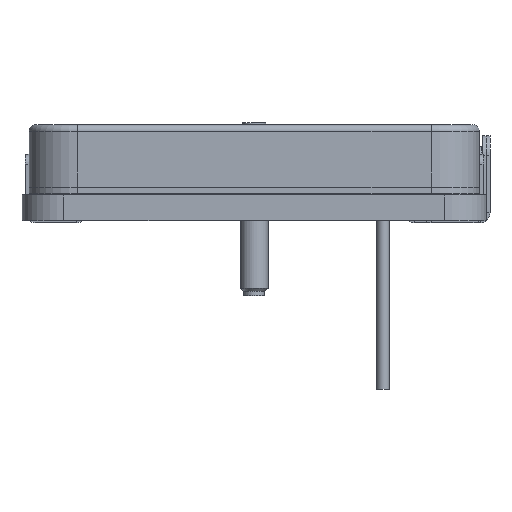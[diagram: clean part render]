
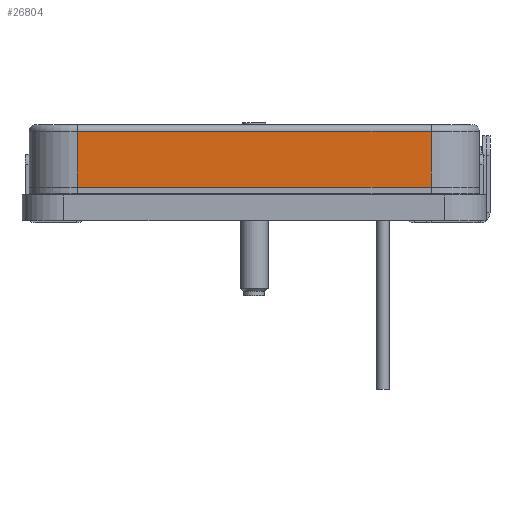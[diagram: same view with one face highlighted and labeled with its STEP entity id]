
A CAD part, left-side view. The second image highlights one B-rep face of the part: STEP entity #26804.
In plain terms, the highlighted planar face has unit normal (-1, 0, 0).
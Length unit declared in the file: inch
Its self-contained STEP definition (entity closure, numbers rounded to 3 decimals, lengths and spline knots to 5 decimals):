
#3231=FACE_OUTER_BOUND('',#4746,.T.);
#4746=EDGE_LOOP('',(#22049,#22050,#22051,#22052));
#7086=LINE('',#46024,#9593);
#7087=LINE('',#46026,#9594);
#7088=LINE('',#46028,#9595);
#7089=LINE('',#46029,#9596);
#9593=VECTOR('',#32133,0.3937);
#9594=VECTOR('',#32134,0.3937);
#9595=VECTOR('',#32135,0.3937);
#9596=VECTOR('',#32136,0.3937);
#12093=VERTEX_POINT('',#46022);
#12094=VERTEX_POINT('',#46023);
#12095=VERTEX_POINT('',#46025);
#12096=VERTEX_POINT('',#46027);
#15505=EDGE_CURVE('',#12093,#12094,#7086,.T.);
#15506=EDGE_CURVE('',#12095,#12093,#7087,.T.);
#15507=EDGE_CURVE('',#12095,#12096,#7088,.T.);
#15508=EDGE_CURVE('',#12094,#12096,#7089,.T.);
#22049=ORIENTED_EDGE('',*,*,#15505,.F.);
#22050=ORIENTED_EDGE('',*,*,#15506,.F.);
#22051=ORIENTED_EDGE('',*,*,#15507,.T.);
#22052=ORIENTED_EDGE('',*,*,#15508,.F.);
#24524=PLANE('',#28322);
#26804=ADVANCED_FACE('',(#3231),#24524,.T.);
#28322=AXIS2_PLACEMENT_3D('',#46021,#32131,#32132);
#32131=DIRECTION('center_axis',(-1.,0.,0.));
#32132=DIRECTION('ref_axis',(0.,-1.,0.));
#32133=DIRECTION('',(0.,-1.,0.));
#32134=DIRECTION('',(0.,0.,1.));
#32135=DIRECTION('',(0.,-1.,0.));
#32136=DIRECTION('',(0.,0.,-1.));
#46021=CARTESIAN_POINT('Origin',(0.,1.4,0.));
#46022=CARTESIAN_POINT('',(0.,1.25,0.174));
#46023=CARTESIAN_POINT('',(0.,0.15,0.174));
#46024=CARTESIAN_POINT('',(0.,1.05,0.174));
#46025=CARTESIAN_POINT('',(0.,1.25,0.));
#46026=CARTESIAN_POINT('',(0.,1.25,0.));
#46027=CARTESIAN_POINT('',(0.,0.15,0.));
#46028=CARTESIAN_POINT('',(0.,1.4,0.));
#46029=CARTESIAN_POINT('',(0.,0.15,0.));
